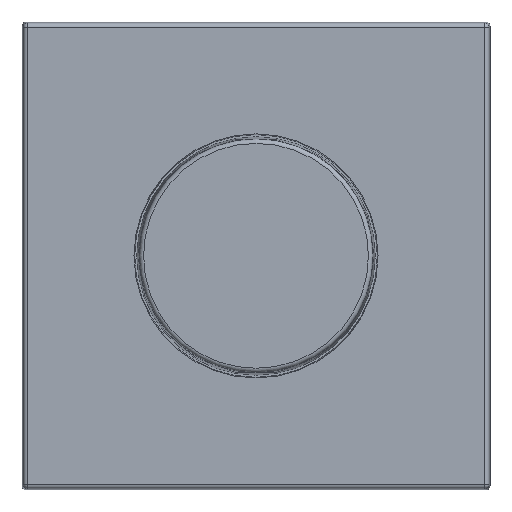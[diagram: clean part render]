
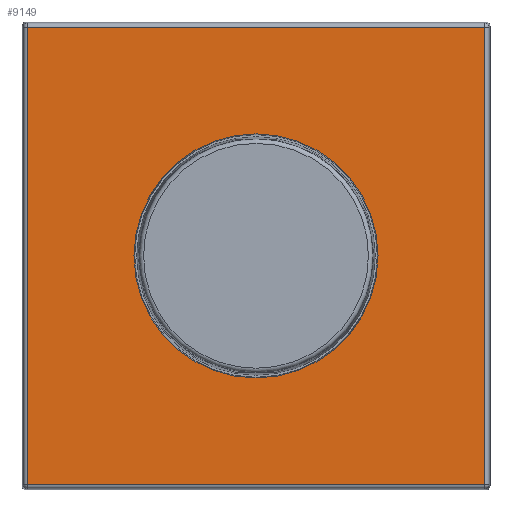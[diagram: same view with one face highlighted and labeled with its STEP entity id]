
A CAD part, top view. The second image highlights one B-rep face of the part: STEP entity #9149.
In plain terms, the highlighted planar face has unit normal (0, 0, 1).
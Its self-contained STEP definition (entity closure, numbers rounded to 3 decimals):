
#707=LINE('',#13604,#1357);
#708=LINE('',#13607,#1358);
#709=LINE('',#13609,#1359);
#710=LINE('',#13611,#1360);
#1357=VECTOR('',#11468,1000.);
#1358=VECTOR('',#11469,1000.);
#1359=VECTOR('',#11470,1000.);
#1360=VECTOR('',#11471,1000.);
#3058=ORIENTED_EDGE('',*,*,#4287,.T.);
#3059=ORIENTED_EDGE('',*,*,#4304,.F.);
#3060=ORIENTED_EDGE('',*,*,#4305,.F.);
#3061=ORIENTED_EDGE('',*,*,#4306,.F.);
#3062=ORIENTED_EDGE('',*,*,#4307,.F.);
#4287=EDGE_CURVE('',#5042,#5042,#5381,.T.);
#4304=EDGE_CURVE('',#5051,#5052,#707,.T.);
#4305=EDGE_CURVE('',#5053,#5051,#708,.T.);
#4306=EDGE_CURVE('',#5054,#5053,#709,.T.);
#4307=EDGE_CURVE('',#5052,#5054,#710,.T.);
#5042=VERTEX_POINT('',#13570);
#5051=VERTEX_POINT('',#13605);
#5052=VERTEX_POINT('',#13606);
#5053=VERTEX_POINT('',#13608);
#5054=VERTEX_POINT('',#13610);
#5381=CIRCLE('',#9756,21.5);
#5822=EDGE_LOOP('',(#3058));
#5823=EDGE_LOOP('',(#3059,#3060,#3061,#3062));
#6327=FACE_BOUND('',#5822,.T.);
#6328=FACE_BOUND('',#5823,.T.);
#6657=PLANE('',#9769);
#9149=ADVANCED_FACE('',(#6327,#6328),#6657,.T.);
#9756=AXIS2_PLACEMENT_3D('',#13569,#11428,#11429);
#9769=AXIS2_PLACEMENT_3D('',#13603,#11466,#11467);
#11428=DIRECTION('',(0.,0.,-1.));
#11429=DIRECTION('',(0.,1.,0.));
#11466=DIRECTION('',(0.,0.,1.));
#11467=DIRECTION('',(1.,0.,0.));
#11468=DIRECTION('',(1.,0.,0.));
#11469=DIRECTION('',(0.,1.,0.));
#11470=DIRECTION('',(-1.,0.,0.));
#11471=DIRECTION('',(0.,-1.,0.));
#13569=CARTESIAN_POINT('',(0.,0.,8.5));
#13570=CARTESIAN_POINT('',(0.,21.5,8.5));
#13603=CARTESIAN_POINT('',(0.,0.,8.5));
#13604=CARTESIAN_POINT('',(-41.,40.276,8.5));
#13605=CARTESIAN_POINT('',(-40.276,40.276,8.5));
#13606=CARTESIAN_POINT('',(40.276,40.276,8.5));
#13607=CARTESIAN_POINT('',(-40.276,-41.,8.5));
#13608=CARTESIAN_POINT('',(-40.276,-40.276,8.5));
#13609=CARTESIAN_POINT('',(41.,-40.276,8.5));
#13610=CARTESIAN_POINT('',(40.276,-40.276,8.5));
#13611=CARTESIAN_POINT('',(40.276,41.,8.5));
